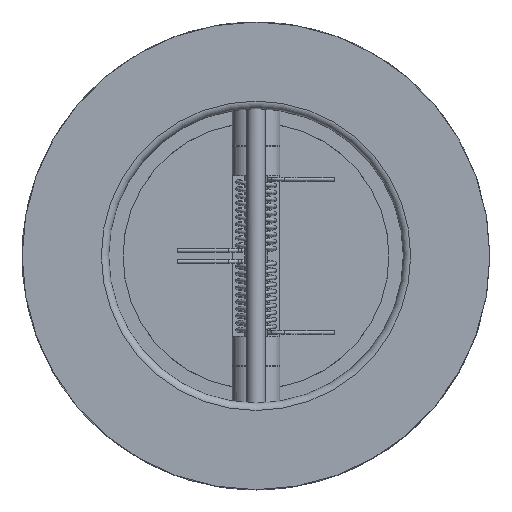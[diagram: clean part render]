
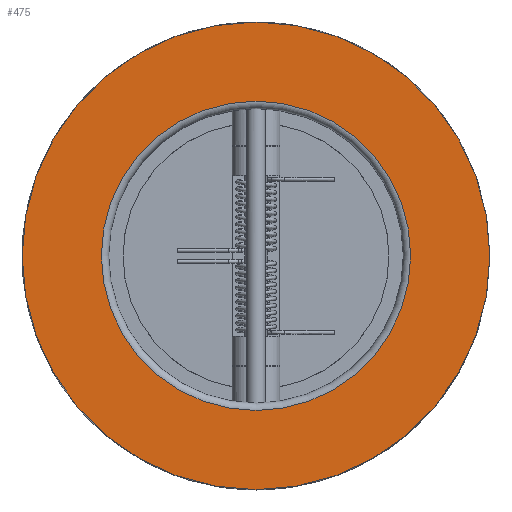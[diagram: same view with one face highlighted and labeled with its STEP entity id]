
A CAD part, top view. The second image highlights one B-rep face of the part: STEP entity #475.
In plain terms, the highlighted planar face has unit normal (0, 0, 1).
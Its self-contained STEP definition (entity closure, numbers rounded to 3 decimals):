
#475 = ADVANCED_FACE( '', ( #1166, #1167 ), #1168, .F. );
#1166 = FACE_BOUND( '', #4896, .T. );
#1167 = FACE_OUTER_BOUND( '', #4897, .T. );
#1168 = PLANE( '', #4898 );
#4896 = EDGE_LOOP( '', ( #10966 ) );
#4897 = EDGE_LOOP( '', ( #10967 ) );
#4898 = AXIS2_PLACEMENT_3D( '', #10968, #10969, #10970 );
#10966 = ORIENTED_EDGE( '', *, *, #12956, .T. );
#10967 = ORIENTED_EDGE( '', *, *, #12957, .F. );
#10968 = CARTESIAN_POINT( '', ( 0., 0., 23. ) );
#10969 = DIRECTION( '', ( 0., 0., -1. ) );
#10970 = DIRECTION( '', ( -1., 0., 0. ) );
#12956 = EDGE_CURVE( '', #14158, #14158, #14159, .T. );
#12957 = EDGE_CURVE( '', #14160, #14160, #14161, .T. );
#14158 = VERTEX_POINT( '', #17855 );
#14159 = CIRCLE( '', #17856, 42. );
#14160 = VERTEX_POINT( '', #17857 );
#14161 = CIRCLE( '', #17858, 63.5 );
#17855 = CARTESIAN_POINT( '', ( -42., 0., 23. ) );
#17856 = AXIS2_PLACEMENT_3D( '', #21754, #21755, #21756 );
#17857 = CARTESIAN_POINT( '', ( 63.5, 0., 23. ) );
#17858 = AXIS2_PLACEMENT_3D( '', #21757, #21758, #21759 );
#21754 = CARTESIAN_POINT( '', ( 0., 0., 23. ) );
#21755 = DIRECTION( '', ( 0., 0., -1. ) );
#21756 = DIRECTION( '', ( -1., 0., 0. ) );
#21757 = CARTESIAN_POINT( '', ( 0., 0., 23. ) );
#21758 = DIRECTION( '', ( 0., 0., -1. ) );
#21759 = DIRECTION( '', ( 1., 0., 0. ) );
